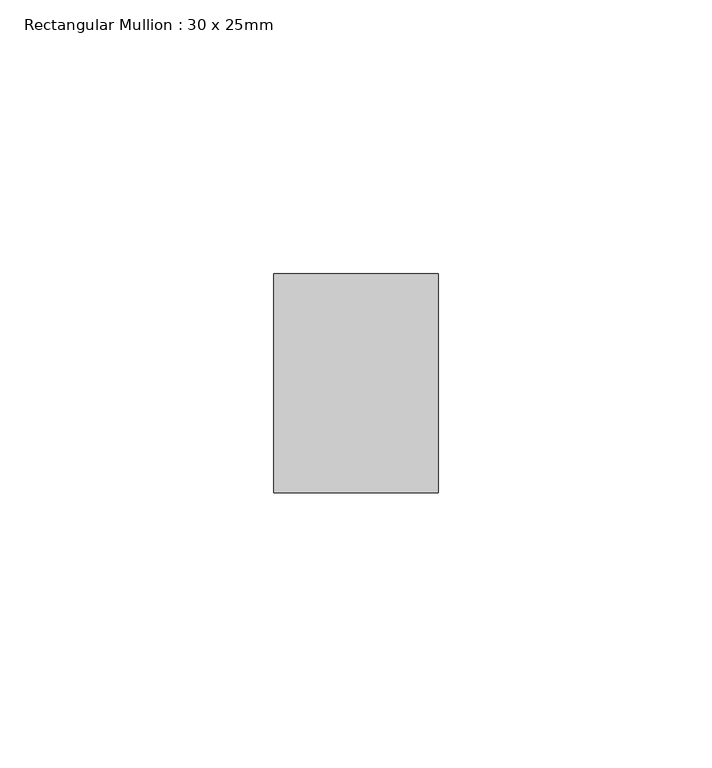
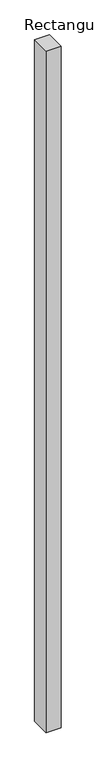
"""IFC4 building model written with IfcOpenShell, lengths in millimetres: member geometry, Rectangular Mullion : 30 x 25mm."""

from ifc_helpers import new_model, si_unit, frame, origin, place, context, project, spatial, polyline, outline, extrude, source, transform, mapped, element, save


def rectangular_mullion_30_x_25mm_c3f4519c(model_context):
    return source(origin(), model_context, "Body", "SweptSolid", [
        extrude(outline(polyline([(0.0, -20.0), (0.0, -60.0), (-30.0, -60.0), (-30.0, -20.0), (0.0, -20.0)])), frame((0.0, 0.0, -1460.0), z_axis=(0.0, 0.0, 1.0), x_axis=(1.0, 0.0, 0.0)), (0.0, 0.0, 1.0), 1460.0),
    ])


if __name__ == "__main__":
    model = new_model("IFC4")
    model_context = context("Model", 3, world=origin())
    ifc_project = project(units=[si_unit("LENGTHUNIT", "METRE", prefix="MILLI")], contexts=[model_context])
    site = spatial("IfcSite", under=ifc_project)
    building = spatial("IfcBuilding", under=site)
    placement = place(None, origin())
    rectangular_mullion_30_x_25mm_shape = rectangular_mullion_30_x_25mm_c3f4519c(model_context)
    element("IfcMember", 1, ObjectType="Rectangular Mullion : 30 x 25mm", at=placement, inside=building, context=model_context, shape_type="MappedRepresentation", body=[
        mapped(rectangular_mullion_30_x_25mm_shape, transform((0.0, 0.0, 0.0), x_axis=(1.0, 0.0, 0.0), y_axis=(0.0, 1.0, 0.0), z_axis=(0.0, 0.0, 1.0))),
    ])
    save(model, "model.ifc")
